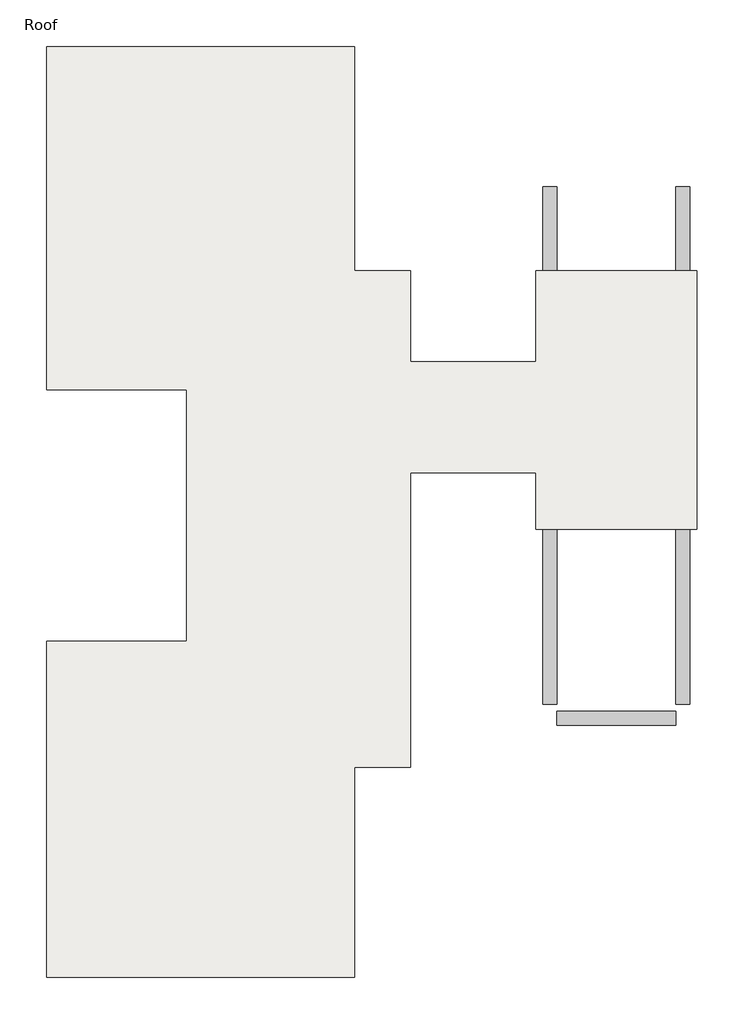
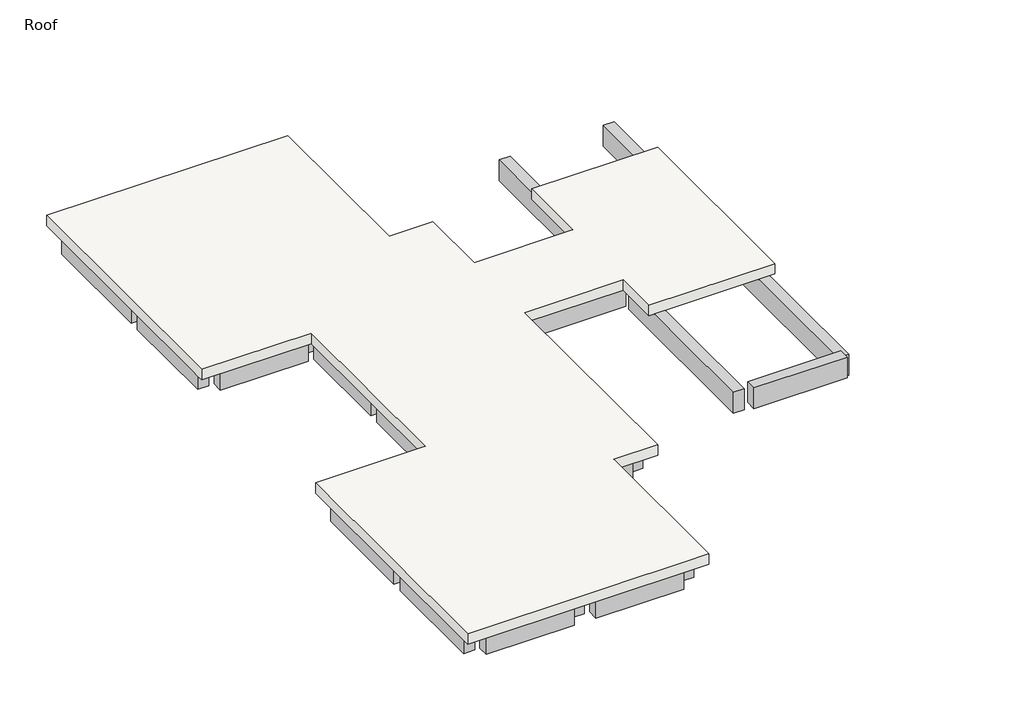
# One storey: 45 beams, 1 slab.
"""IFC4 building model written with IfcOpenShell, lengths in millimetres."""

import ifcopenshell
import ifcopenshell.guid

model = None  # the IFC model being written
_history = None  # IfcOwnerHistory: only IFC2X3 demands one
_inside = {}  # id of a spatial element -> (the spatial element, [elements in it])
_under = {}  # id of a project, library or spatial element -> (it, [spatial elements below it])
_declared = {}  # id of a project -> (the project, [libraries it declares])
_typed = {}  # id of a type object -> (the type object, [elements of that type])
_made_of = {}  # id of a material, layer set ... -> (it, [elements and type objects made of it])


def new_model(schema):
    """Start an empty IFC model of exactly this schema.

    Asked for "IFC4X3", IfcOpenShell would pick the latest addendum, in which some entities
    have other attributes; the version numbers below select the first issue.
    IFC2X3 requires an IfcOwnerHistory on every rooted entity: one is made here for all.
    """
    global model, _history
    if schema == "IFC4X3":
        model = ifcopenshell.file(schema_version=(4, 3, 0, 0))
    else:
        model = ifcopenshell.file(schema=schema)
    _inside.clear()
    _under.clear()
    _declared.clear()
    _typed.clear()
    _made_of.clear()
    _history = None
    if model.schema == "IFC2X3":
        org = make("IfcOrganization", Name="unknown")
        user = make(
            "IfcPersonAndOrganization",
            ThePerson=make("IfcPerson", FamilyName="unknown"),
            TheOrganization=org,
        )
        app = make(
            "IfcApplication",
            ApplicationDeveloper=org,
            Version="unknown",
            ApplicationFullName="unknown",
            ApplicationIdentifier="unknown",
        )
        _history = make(
            "IfcOwnerHistory",
            OwningUser=user,
            OwningApplication=app,
            ChangeAction="ADDED",
            CreationDate=0,
        )
    return model


def make(cls, **values):
    """One entity of the class cls with the attributes given. An attribute that is None is left unset."""
    return model.create_entity(
        cls, **{name: value for name, value in values.items() if value is not None}
    )


def rooted(cls, **values):
    """An entity with a GlobalId (a new one), such as an element, a storey or a relation."""
    return make(cls, GlobalId=ifcopenshell.guid.new(), OwnerHistory=_history, **values)


def si_unit(unit_type, name, prefix=None):
    """IfcSIUnit, for example si_unit("LENGTHUNIT", "METRE", prefix="MILLI")."""
    return make("IfcSIUnit", UnitType=unit_type, Prefix=prefix, Name=name)


def assignment(units):
    """IfcUnitAssignment: the units of a project."""
    return None if units is None else make("IfcUnitAssignment", Units=units)


def point(xyz):
    """IfcCartesianPoint."""
    return None if xyz is None else make("IfcCartesianPoint", Coordinates=xyz)


def direction(xyz):
    """IfcDirection."""
    return None if xyz is None else make("IfcDirection", DirectionRatios=xyz)


def frame(location, z_axis=None, x_axis=None):
    """IfcAxis2Placement3D, a coordinate frame: its origin and axes. An axis left out is left unset."""
    return make(
        "IfcAxis2Placement3D",
        Location=point(location),
        Axis=direction(z_axis),
        RefDirection=direction(x_axis),
    )


def origin():
    """The frame at (0, 0, 0) with its axes left unset."""
    return frame((0.0, 0.0, 0.0))


def place(relative_to, where):
    """IfcLocalPlacement: puts the frame where relative to a parent placement (None: the world)."""
    return make(
        "IfcLocalPlacement", PlacementRelTo=relative_to, RelativePlacement=where
    )


def context(
    kind, dimensions, precision=None, world=None, true_north=None, identifier=None
):
    """IfcGeometricRepresentationContext, for example the 3D "Model" context."""
    return make(
        "IfcGeometricRepresentationContext",
        ContextIdentifier=identifier,
        ContextType=kind,
        CoordinateSpaceDimension=dimensions,
        Precision=precision,
        WorldCoordinateSystem=world,
        TrueNorth=true_north,
    )


def project(units=None, contexts=None):
    """IfcProject with its units and contexts."""
    return rooted(
        "IfcProject",
        Name="project",
        RepresentationContexts=contexts,
        UnitsInContext=assignment(units),
    )


def spatial(cls, under=None, at=None, **own):
    """A site, building, storey or space (cls), placed at a placement, below another one or the project."""
    s = rooted(cls, ObjectPlacement=at, **own)
    if under is not None:
        _under.setdefault(under.id(), (under, []))[1].append(s)
    return s


def polyline(points):
    """IfcPolyline through the points."""
    return make("IfcPolyline", Points=[point(p) for p in points])


def outline(outer, holes=None, kind="AREA"):
    """IfcArbitraryClosedProfileDef: a profile drawn as a closed curve; with holes, ...WithVoids."""
    if holes is None:
        return make("IfcArbitraryClosedProfileDef", ProfileType=kind, OuterCurve=outer)
    return make(
        "IfcArbitraryProfileDefWithVoids",
        ProfileType=kind,
        OuterCurve=outer,
        InnerCurves=holes,
    )


def extrude(swept, where, along, depth):
    """IfcExtrudedAreaSolid: the profile swept, set in the frame where, extruded along a direction by depth."""
    return make(
        "IfcExtrudedAreaSolid",
        SweptArea=swept,
        Position=where,
        ExtrudedDirection=direction(along),
        Depth=depth,
    )


def faces_of(points, faces, orient=None, outer=None):
    """IfcFace entities. A face is a list of loops; a loop is a list of indices into points, from 0.

    orient and outer hold one flag for each loop. By default every Orientation is true, the
    first loop of a face is its IfcFaceOuterBound and the others are IfcFaceBound.
    """
    made = []
    for i, loops in enumerate(faces):
        bounds = []
        for j, loop in enumerate(loops):
            is_outer = j == 0 if outer is None else outer[i][j]
            bounds.append(
                make(
                    "IfcFaceOuterBound" if is_outer else "IfcFaceBound",
                    Bound=make("IfcPolyLoop", Polygon=[points[k] for k in loop]),
                    Orientation=True if orient is None else orient[i][j],
                )
            )
        made.append(make("IfcFace", Bounds=bounds))
    return made


def faceted_brep(points, faces, orient=None, outer=None, voids=None):
    """IfcFacetedBrep: a solid bounded by flat faces; with voids (closed shells), ...WithVoids."""
    shared = [point(p) for p in points]
    hull = make("IfcClosedShell", CfsFaces=faces_of(shared, faces, orient, outer))
    if voids is None:
        return make("IfcFacetedBrep", Outer=hull)
    return make(
        "IfcFacetedBrepWithVoids",
        Outer=hull,
        Voids=[
            make(cls, CfsFaces=faces_of(shared, fs, o, b)) for cls, fs, o, b in voids
        ],
    )


def shape(context_of_items, identifier, shape_type, items):
    """IfcShapeRepresentation: the items that make up one representation, for example the "Body"."""
    return make(
        "IfcShapeRepresentation",
        ContextOfItems=context_of_items,
        RepresentationIdentifier=identifier,
        RepresentationType=shape_type,
        Items=items,
    )


def made_of(thing, what):
    """Note that an element or type object is made of a material, layer set ...; save() writes the relation."""
    if what is not None:
        _made_of.setdefault(what.id(), (what, []))[1].append(thing)
    return thing


def element(
    cls,
    number,
    at=None,
    inside=None,
    cuts=None,
    type_object=None,
    material=None,
    context=None,
    identifier="Body",
    shape_type=None,
    held_by="IfcProductDefinitionShape",
    body=None,
    shapes=None,
    **own,
):
    """One element of the class cls, such as IfcWall. Its Tag is "e" and its number.

    at: its placement. inside: the storey or other place that contains it. cuts: it is an
    opening in that element (IfcRelVoidsElement). A single representation is given by context,
    identifier, shape_type and body (its items); several are given by shapes. held_by: the class
    of the entity that holds the representations. save() writes the other relations.
    """
    e = rooted(cls, Tag="e%d" % number, ObjectPlacement=at, **own)
    if body is not None:
        shapes = [shape(context, identifier, shape_type, body)]
    if shapes is not None:
        e.Representation = make(held_by, Representations=shapes)
    if inside is not None:
        _inside.setdefault(inside.id(), (inside, []))[1].append(e)
    if cuts is not None:
        rooted(
            "IfcRelVoidsElement", RelatingBuildingElement=cuts, RelatedOpeningElement=e
        )
    if type_object is not None:
        _typed.setdefault(type_object.id(), (type_object, []))[1].append(e)
    return made_of(e, material)


def aggregate(whole, parts):
    """IfcRelAggregates: a whole, such as a stair, and the parts it consists of."""
    return rooted("IfcRelAggregates", RelatingObject=whole, RelatedObjects=parts)


def save(model, path):
    """Write the relations noted so far, then the file.

    IfcRelAggregates (storeys below a building ...), IfcRelContainedInSpatialStructure (elements
    in a storey), IfcRelDefinesByType, IfcRelAssociatesMaterial and IfcRelDeclares: one each for
    every whole, place, type object, material and project.
    """
    for whole, parts in _under.values():
        aggregate(whole, parts)
    for where, things in _inside.values():
        rooted(
            "IfcRelContainedInSpatialStructure",
            RelatedElements=things,
            RelatingStructure=where,
        )
    for kind, things in _typed.values():
        rooted("IfcRelDefinesByType", RelatedObjects=things, RelatingType=kind)
    for what, things in _made_of.values():
        rooted("IfcRelAssociatesMaterial", RelatedObjects=things, RelatingMaterial=what)
    for by, libraries in _declared.values():
        rooted("IfcRelDeclares", RelatingContext=by, RelatedDefinitions=libraries)
    model.write(path)


model = new_model("IFC4")

# Units and contexts
model_context = context("Model", 3, world=origin())
ifc_project = project(units=[si_unit("LENGTHUNIT", "METRE", prefix="MILLI")], contexts=[model_context])

# Site, building, storey
site = spatial("IfcSite", under=ifc_project)
building = spatial("IfcBuilding", under=site)
storey = spatial("IfcBuildingStorey", under=building, Name="Roof", Elevation=7620.0)

# Beams
placement = place(None, origin())
element("IfcBeam", 1, ObjectType="Concrete-Rectangular Beam : 12 x 24", at=placement, inside=storey, context=model_context, shape_type="SweptSolid", body=[
    extrude(outline(polyline([(-15067.9554735, 14342.1867088), (-15067.9554735, 14646.9867088), (-12629.5554735, 14646.9867088), (-12629.5554735, 14342.1867088), (-15067.9554735, 14342.1867088)])), frame((0.0, 0.0, 6705.6), z_axis=(0.0, 0.0, 1.0), x_axis=(1.0, 0.0, 0.0)), (0.0, 0.0, 1.0), 609.6),
])
element("IfcBeam", 2, ObjectType="Concrete-Rectangular Beam : 12 x 24", at=placement, inside=storey, context=model_context, shape_type="SweptSolid", body=[
    extrude(outline(polyline([(-12019.9554735, 14342.1867088), (-12019.9554735, 14646.9867088), (-9581.5554735, 14646.9867088), (-9581.5554735, 14342.1867088), (-12019.9554735, 14342.1867088)])), frame((0.0, 0.0, 6705.6), z_axis=(0.0, 0.0, 1.0), x_axis=(1.0, 0.0, 0.0)), (0.0, 0.0, 1.0), 609.6),
])
element("IfcBeam", 3, ObjectType="Concrete-Rectangular Beam : 12 x 24", at=placement, inside=storey, context=model_context, shape_type="SweptSolid", body=[
    extrude(outline(polyline([(-9429.1554735, 14342.1867088), (-9124.3554735, 14342.1867088), (-9124.3554735, 10989.3867088), (-9429.1554735, 10989.3867088), (-9429.1554735, 14342.1867088)])), frame((0.0, 0.0, 6705.6), z_axis=(0.0, 0.0, 1.0), x_axis=(1.0, 0.0, 0.0)), (0.0, 0.0, 1.0), 609.6),
])
element("IfcBeam", 4, ObjectType="Concrete-Rectangular Beam : 12 x 24", at=placement, inside=storey, context=model_context, shape_type="SweptSolid", body=[
    extrude(outline(polyline([(-7905.1554735, 7788.9867088), (-8209.9554735, 7788.9867088), (-8209.9554735, 9465.3867088), (-7905.1554735, 9465.3867088), (-7905.1554735, 7788.9867088)])), frame((0.0, 0.0, 6705.6), z_axis=(0.0, 0.0, 1.0), x_axis=(1.0, 0.0, 0.0)), (0.0, 0.0, 1.0), 609.6),
])
element("IfcBeam", 5, ObjectType="Concrete-Rectangular Beam : 12 x 24", at=placement, inside=storey, context=model_context, shape_type="Brep", body=[
    faceted_brep([(-9429.1554735, 9770.1867088, 7315.2), (-9429.1554735, 9465.3867088, 7315.2), (-8362.3554735, 9465.3867088, 7315.2), (-8362.3554735, 9770.1867088, 7315.2), (-9124.3554735, 9770.1867088, 7315.2), (-9429.1554735, 9770.1867088, 6705.6), (-8362.3554735, 9770.1867088, 6705.6), (-9124.3554735, 9770.1867088, 6705.6), (-9429.1554735, 9465.3867088, 6705.6), (-8362.3554735, 9465.3867088, 6705.6)], [[[0, 1, 2, 3, 4]], [[5, 0, 4, 3, 6, 7]], [[8, 5, 7, 6, 9]], [[1, 8, 9, 2]], [[3, 2, 9, 6]], [[1, 0, 5, 8]]]),
])
element("IfcBeam", 6, ObjectType="Concrete-Rectangular Beam : 12 x 24", at=placement, inside=storey, context=model_context, shape_type="Brep", body=[
    faceted_brep([(-7905.1554735, 7484.1867088, 7315.2), (-8209.9554735, 7484.1867088, 7315.2), (-8209.9554735, 4740.9867088, 7315.2), (-7905.1554735, 4740.9867088, 7315.2), (-7905.1554735, 5655.3867088, 7315.2), (-7905.1554735, 5960.1867088, 7315.2), (-8209.9554735, 7484.1867088, 6705.6), (-8209.9554735, 4740.9867088, 6705.6), (-7905.1554735, 7484.1867088, 6705.6), (-7905.1554735, 5960.1867088, 6705.6), (-7905.1554735, 5655.3867088, 6705.6), (-7905.1554735, 4740.9867088, 6705.6)], [[[0, 1, 2, 3, 4, 5]], [[1, 6, 7, 2]], [[6, 8, 9, 10, 11, 7]], [[8, 0, 5, 4, 3, 11, 10, 9]], [[6, 1, 0, 8]], [[3, 2, 7, 11]]]),
])
element("IfcBeam", 7, ObjectType="Concrete-Rectangular Beam : 12 x 24", at=placement, inside=storey, context=model_context, shape_type="SweptSolid", body=[
    extrude(outline(polyline([(-8209.9554735, 4436.1867088), (-7905.1554735, 4436.1867088), (-7905.1554735, 1692.9867088), (-8209.9554735, 1692.9867088), (-8209.9554735, 4436.1867088)])), frame((0.0, 0.0, 6705.6), z_axis=(0.0, 0.0, 1.0), x_axis=(1.0, 0.0, 0.0)), (0.0, 0.0, 1.0), 609.6),
])
element("IfcBeam", 8, ObjectType="Concrete-Rectangular Beam : 12 x 24", at=placement, inside=storey, context=model_context, shape_type="SweptSolid", body=[
    extrude(outline(polyline([(-8209.9554735, 1388.1867088), (-7905.1554735, 1388.1867088), (-7905.1554735, -440.6132912), (-8209.9554735, -440.6132912), (-8209.9554735, 1388.1867088)])), frame((0.0, 0.0, 6705.6), z_axis=(0.0, 0.0, 1.0), x_axis=(1.0, 0.0, 0.0)), (0.0, 0.0, 1.0), 609.6),
])
element("IfcBeam", 9, ObjectType="Concrete-Rectangular Beam : 12 x 24", at=placement, inside=storey, context=model_context, shape_type="Brep", body=[
    faceted_brep([(-9429.1554735, -440.6132912, 7315.2), (-9429.1554735, -745.4132912, 7315.2), (-9124.3554735, -745.4132912, 7315.2), (-8362.3554735, -745.4132912, 7315.2), (-8362.3554735, -440.6132912, 7315.2), (-9429.1554735, -440.6132912, 6705.6), (-8362.3554735, -440.6132912, 6705.6), (-9429.1554735, -745.4132912, 6705.6), (-8362.3554735, -745.4132912, 6705.6), (-9124.3554735, -745.4132912, 6705.6)], [[[0, 1, 2, 3, 4]], [[5, 0, 4, 6]], [[7, 5, 6, 8, 9]], [[1, 7, 9, 8, 3, 2]], [[4, 3, 8, 6]], [[1, 0, 5, 7]]]),
])
element("IfcBeam", 10, ObjectType="Concrete-Rectangular Beam : 12 x 24", at=placement, inside=storey, context=model_context, shape_type="SweptSolid", body=[
    extrude(outline(polyline([(-9429.1554735, -745.4132912), (-9124.3554735, -745.4132912), (-9124.3554735, -1659.8132912), (-9429.1554735, -1659.8132912), (-9429.1554735, -745.4132912)])), frame((0.0, 0.0, 6705.6), z_axis=(0.0, 0.0, 1.0), x_axis=(1.0, 0.0, 0.0)), (0.0, 0.0, 1.0), 609.6),
])
element("IfcBeam", 11, ObjectType="Concrete-Rectangular Beam : 12 x 24", at=placement, inside=storey, context=model_context, shape_type="SweptSolid", body=[
    extrude(outline(polyline([(-9429.1554735, -1964.6132912), (-9124.3554735, -1964.6132912), (-9124.3554735, -5012.6132912), (-9429.1554735, -5012.6132912), (-9429.1554735, -1964.6132912)])), frame((0.0, 0.0, 6705.6), z_axis=(0.0, 0.0, 1.0), x_axis=(1.0, 0.0, 0.0)), (0.0, 0.0, 1.0), 609.6),
])
element("IfcBeam", 12, ObjectType="Concrete-Rectangular Beam : 12 x 24", at=placement, inside=storey, context=model_context, shape_type="SweptSolid", body=[
    extrude(outline(polyline([(-12019.9554735, -5317.4132912), (-12019.9554735, -5012.6132912), (-9581.5554735, -5012.6132912), (-9581.5554735, -5317.4132912), (-12019.9554735, -5317.4132912)])), frame((0.0, 0.0, 6705.6), z_axis=(0.0, 0.0, 1.0), x_axis=(1.0, 0.0, 0.0)), (0.0, 0.0, 1.0), 609.6),
])
element("IfcBeam", 13, ObjectType="Concrete-Rectangular Beam : 12 x 24", at=placement, inside=storey, context=model_context, shape_type="SweptSolid", body=[
    extrude(outline(polyline([(-12629.5554735, -5012.6132912), (-12629.5554735, -5317.4132912), (-15067.9554735, -5317.4132912), (-15067.9554735, -5012.6132912), (-12629.5554735, -5012.6132912)])), frame((0.0, 0.0, 6705.6), z_axis=(0.0, 0.0, 1.0), x_axis=(1.0, 0.0, 0.0)), (0.0, 0.0, 1.0), 609.6),
])
element("IfcBeam", 14, ObjectType="Concrete-Rectangular Beam : 12 x 24", at=placement, inside=storey, context=model_context, shape_type="SweptSolid", body=[
    extrude(outline(polyline([(-15220.3554735, -5012.6132912), (-15525.1554735, -5012.6132912), (-15525.1554735, -1964.6132912), (-15220.3554735, -1964.6132912), (-15220.3554735, -5012.6132912)])), frame((0.0, 0.0, 6705.6), z_axis=(0.0, 0.0, 1.0), x_axis=(1.0, 0.0, 0.0)), (0.0, 0.0, 1.0), 609.6),
])
element("IfcBeam", 15, ObjectType="Concrete-Rectangular Beam : 12 x 24", at=placement, inside=storey, context=model_context, shape_type="SweptSolid", body=[
    extrude(outline(polyline([(-15220.3554735, -1659.8132912), (-15525.1554735, -1659.8132912), (-15525.1554735, 1388.1867088), (-15220.3554735, 1388.1867088), (-15220.3554735, -1659.8132912)])), frame((0.0, 0.0, 6705.6), z_axis=(0.0, 0.0, 1.0), x_axis=(1.0, 0.0, 0.0)), (0.0, 0.0, 1.0), 609.6),
])
element("IfcBeam", 16, ObjectType="Concrete-Rectangular Beam : 12 x 24", at=placement, inside=storey, context=model_context, shape_type="SweptSolid", body=[
    extrude(outline(polyline([(-15525.1554735, 14342.1867088), (-15220.3554735, 14342.1867088), (-15220.3554735, 10989.3867088), (-15525.1554735, 10989.3867088), (-15525.1554735, 14342.1867088)])), frame((0.0, 0.0, 6705.6), z_axis=(0.0, 0.0, 1.0), x_axis=(1.0, 0.0, 0.0)), (0.0, 0.0, 1.0), 609.6),
])
element("IfcBeam", 17, ObjectType="Concrete-Rectangular Beam : 12 x 24", at=placement, inside=storey, context=model_context, shape_type="SweptSolid", body=[
    extrude(outline(polyline([(-12477.1554735, 14342.1867088), (-12172.3554735, 14342.1867088), (-12172.3554735, 10989.3867088), (-12477.1554735, 10989.3867088), (-12477.1554735, 14342.1867088)])), frame((0.0, 0.0, 6705.6), z_axis=(0.0, 0.0, 1.0), x_axis=(1.0, 0.0, 0.0)), (0.0, 0.0, 1.0), 609.6),
])
element("IfcBeam", 18, ObjectType="Concrete-Rectangular Beam : 12 x 24", at=placement, inside=storey, context=model_context, shape_type="SweptSolid", body=[
    extrude(outline(polyline([(-15067.9554735, 10684.5867088), (-15067.9554735, 10989.3867088), (-12629.5554735, 10989.3867088), (-12629.5554735, 10684.5867088), (-15067.9554735, 10684.5867088)])), frame((0.0, 0.0, 6705.6), z_axis=(0.0, 0.0, 1.0), x_axis=(1.0, 0.0, 0.0)), (0.0, 0.0, 1.0), 609.6),
])
element("IfcBeam", 19, ObjectType="Concrete-Rectangular Beam : 12 x 24", at=placement, inside=storey, context=model_context, shape_type="SweptSolid", body=[
    extrude(outline(polyline([(-12477.1554735, 10836.9867088), (-12172.3554735, 10836.9867088), (-12172.3554735, 7788.9867088), (-12477.1554735, 7788.9867088), (-12477.1554735, 10836.9867088)])), frame((0.0, 0.0, 6705.6), z_axis=(0.0, 0.0, 1.0), x_axis=(1.0, 0.0, 0.0)), (0.0, 0.0, 1.0), 609.6),
])
element("IfcBeam", 20, ObjectType="Concrete-Rectangular Beam : 12 x 24", at=placement, inside=storey, context=model_context, shape_type="SweptSolid", body=[
    extrude(outline(polyline([(-12477.1554735, 7484.1867088), (-12172.3554735, 7484.1867088), (-12172.3554735, 4740.9867088), (-12477.1554735, 4740.9867088), (-12477.1554735, 7484.1867088)])), frame((0.0, 0.0, 6705.6), z_axis=(0.0, 0.0, 1.0), x_axis=(1.0, 0.0, 0.0)), (0.0, 0.0, 1.0), 609.6),
])
element("IfcBeam", 21, ObjectType="Concrete-Rectangular Beam : 12 x 24", at=placement, inside=storey, context=model_context, shape_type="SweptSolid", body=[
    extrude(outline(polyline([(-12477.1554735, 4436.1867088), (-12172.3554735, 4436.1867088), (-12172.3554735, 1692.9867088), (-12477.1554735, 1692.9867088), (-12477.1554735, 4436.1867088)])), frame((0.0, 0.0, 6705.6), z_axis=(0.0, 0.0, 1.0), x_axis=(1.0, 0.0, 0.0)), (0.0, 0.0, 1.0), 609.6),
])
element("IfcBeam", 22, ObjectType="Concrete-Rectangular Beam : 12 x 24", at=placement, inside=storey, context=model_context, shape_type="SweptSolid", body=[
    extrude(outline(polyline([(-12477.1554735, 1388.1867088), (-12172.3554735, 1388.1867088), (-12172.3554735, -1659.8132912), (-12477.1554735, -1659.8132912), (-12477.1554735, 1388.1867088)])), frame((0.0, 0.0, 6705.6), z_axis=(0.0, 0.0, 1.0), x_axis=(1.0, 0.0, 0.0)), (0.0, 0.0, 1.0), 609.6),
])
element("IfcBeam", 23, ObjectType="Concrete-Rectangular Beam : 12 x 24", at=placement, inside=storey, context=model_context, shape_type="SweptSolid", body=[
    extrude(outline(polyline([(-12172.3554735, -5012.6132912), (-12477.1554735, -5012.6132912), (-12477.1554735, -1964.6132912), (-12172.3554735, -1964.6132912), (-12172.3554735, -5012.6132912)])), frame((0.0, 0.0, 6705.6), z_axis=(0.0, 0.0, 1.0), x_axis=(1.0, 0.0, 0.0)), (0.0, 0.0, 1.0), 609.6),
])
element("IfcBeam", 24, ObjectType="Concrete-Rectangular Beam : 12 x 24", at=placement, inside=storey, context=model_context, shape_type="SweptSolid", body=[
    extrude(outline(polyline([(-15525.1554735, 10684.5867088), (-15220.3554735, 10684.5867088), (-15220.3554735, 7788.9867088), (-15525.1554735, 7788.9867088), (-15525.1554735, 10684.5867088)])), frame((0.0, 0.0, 6705.6), z_axis=(0.0, 0.0, 1.0), x_axis=(1.0, 0.0, 0.0)), (0.0, 0.0, 1.0), 609.6),
])
element("IfcBeam", 25, ObjectType="Concrete-Rectangular Beam : 12 x 24", at=placement, inside=storey, context=model_context, shape_type="SweptSolid", body=[
    extrude(outline(polyline([(-15067.9554735, 7484.1867088), (-15067.9554735, 7788.9867088), (-12629.5554735, 7788.9867088), (-12629.5554735, 7484.1867088), (-15067.9554735, 7484.1867088)])), frame((0.0, 0.0, 6705.6), z_axis=(0.0, 0.0, 1.0), x_axis=(1.0, 0.0, 0.0)), (0.0, 0.0, 1.0), 609.6),
])
element("IfcBeam", 26, ObjectType="Concrete-Rectangular Beam : 12 x 24", at=placement, inside=storey, context=model_context, shape_type="SweptSolid", body=[
    extrude(outline(polyline([(-12019.9554735, 1388.1867088), (-12019.9554735, 1692.9867088), (-8362.3554735, 1692.9867088), (-8362.3554735, 1388.1867088), (-12019.9554735, 1388.1867088)])), frame((0.0, 0.0, 6705.6), z_axis=(0.0, 0.0, 1.0), x_axis=(1.0, 0.0, 0.0)), (0.0, 0.0, 1.0), 609.6),
])
element("IfcBeam", 27, ObjectType="Concrete-Rectangular Beam : 12 x 24", at=placement, inside=storey, context=model_context, shape_type="SweptSolid", body=[
    extrude(outline(polyline([(-4552.3554735, 5655.3867088), (-4552.3554735, 5960.1867088), (-1961.5554735, 5960.1867088), (-1961.5554735, 5655.3867088), (-4552.3554735, 5655.3867088)])), frame((0.0, 0.0, 6705.6), z_axis=(0.0, 0.0, 1.0), x_axis=(1.0, 0.0, 0.0)), (0.0, 0.0, 1.0), 609.6),
])
element("IfcBeam", 28, ObjectType="Concrete-Rectangular Beam : 12 x 24", at=placement, inside=storey, context=model_context, shape_type="SweptSolid", body=[
    extrude(outline(polyline([(-4857.1554735, 7788.9867088), (-4857.1554735, 7484.1867088), (-7752.7554735, 7484.1867088), (-7752.7554735, 7788.9867088), (-4857.1554735, 7788.9867088)])), frame((0.0, 0.0, 6705.6), z_axis=(0.0, 0.0, 1.0), x_axis=(1.0, 0.0, 0.0)), (0.0, 0.0, 1.0), 609.6),
])
element("IfcBeam", 29, ObjectType="Concrete-Rectangular Beam : 12 x 24", at=placement, inside=storey, context=model_context, shape_type="SweptSolid", body=[
    extrude(outline(polyline([(-4857.1554735, 5960.1867088), (-4857.1554735, 5655.3867088), (-7905.1554735, 5655.3867088), (-7905.1554735, 5960.1867088), (-4857.1554735, 5960.1867088)])), frame((0.0, 0.0, 6705.6), z_axis=(0.0, 0.0, 1.0), x_axis=(1.0, 0.0, 0.0)), (0.0, 0.0, 1.0), 609.6),
])
element("IfcBeam", 30, ObjectType="Concrete-Rectangular Beam : 12 x 24", at=placement, inside=storey, context=model_context, shape_type="SweptSolid", body=[
    extrude(outline(polyline([(-4552.3554735, 7484.1867088), (-4552.3554735, 7788.9867088), (-1961.5554735, 7788.9867088), (-1961.5554735, 7484.1867088), (-4552.3554735, 7484.1867088)])), frame((0.0, 0.0, 6705.6), z_axis=(0.0, 0.0, 1.0), x_axis=(1.0, 0.0, 0.0)), (0.0, 0.0, 1.0), 609.6),
])
element("IfcBeam", 31, ObjectType="Concrete-Rectangular Beam : 12 x 24", at=placement, inside=storey, context=model_context, shape_type="SweptSolid", body=[
    extrude(outline(polyline([(-12477.1554735, 10684.5867088), (-12172.3554735, 10684.5867088), (-12172.3554735, 7788.9867088), (-12477.1554735, 7788.9867088), (-12477.1554735, 10684.5867088)])), frame((0.0, 0.0, 6705.6), z_axis=(0.0, 0.0, 1.0), x_axis=(1.0, 0.0, 0.0)), (0.0, 0.0, 1.0), 609.6),
])
element("IfcBeam", 32, ObjectType="Concrete-Rectangular Beam : 12 x 24", at=placement, inside=storey, context=model_context, shape_type="SweptSolid", body=[
    extrude(outline(polyline([(-12019.9554735, 10684.5867088), (-12019.9554735, 10989.3867088), (-9581.5554735, 10989.3867088), (-9581.5554735, 10684.5867088), (-12019.9554735, 10684.5867088)])), frame((0.0, 0.0, 6705.6), z_axis=(0.0, 0.0, 1.0), x_axis=(1.0, 0.0, 0.0)), (0.0, 0.0, 1.0), 609.6),
])
element("IfcBeam", 33, ObjectType="Concrete-Rectangular Beam : 12 x 24", at=placement, inside=storey, context=model_context, shape_type="SweptSolid", body=[
    extrude(outline(polyline([(-12629.5554735, -1659.8132912), (-12629.5554735, -1964.6132912), (-15067.9554735, -1964.6132912), (-15067.9554735, -1659.8132912), (-12629.5554735, -1659.8132912)])), frame((0.0, 0.0, 6705.6), z_axis=(0.0, 0.0, 1.0), x_axis=(1.0, 0.0, 0.0)), (0.0, 0.0, 1.0), 609.6),
])
element("IfcBeam", 34, ObjectType="Concrete-Rectangular Beam : 12 x 24", at=placement, inside=storey, context=model_context, shape_type="SweptSolid", body=[
    extrude(outline(polyline([(-12629.5554735, 1692.9867088), (-12629.5554735, 1388.1867088), (-15067.9554735, 1388.1867088), (-15067.9554735, 1692.9867088), (-12629.5554735, 1692.9867088)])), frame((0.0, 0.0, 6705.6), z_axis=(0.0, 0.0, 1.0), x_axis=(1.0, 0.0, 0.0)), (0.0, 0.0, 1.0), 609.6),
])
element("IfcBeam", 35, ObjectType="Concrete-Rectangular Beam : 12 x 24", at=placement, inside=storey, context=model_context, shape_type="SweptSolid", body=[
    extrude(outline(polyline([(-12019.9554735, -1964.6132912), (-12019.9554735, -1659.8132912), (-9581.5554735, -1659.8132912), (-9581.5554735, -1964.6132912), (-12019.9554735, -1964.6132912)])), frame((0.0, 0.0, 6705.6), z_axis=(0.0, 0.0, 1.0), x_axis=(1.0, 0.0, 0.0)), (0.0, 0.0, 1.0), 609.6),
])
element("IfcBeam", 36, ObjectType="Concrete-Rectangular Beam : 12 x 24", at=placement, inside=storey, context=model_context, shape_type="SweptSolid", body=[
    extrude(outline(polyline([(-9124.3554735, 9770.1867088), (-9429.1554735, 9770.1867088), (-9429.1554735, 10684.5867088), (-9124.3554735, 10684.5867088), (-9124.3554735, 9770.1867088)])), frame((0.0, 0.0, 6705.6), z_axis=(0.0, 0.0, 1.0), x_axis=(1.0, 0.0, 0.0)), (0.0, 0.0, 1.0), 609.6),
])
element("IfcBeam", 37, ObjectType="Concrete-Rectangular Beam : 12 x 24", at=placement, inside=storey, context=model_context, shape_type="SweptSolid", body=[
    extrude(outline(polyline([(-8362.3554735, 7788.9867088), (-8362.3554735, 7484.1867088), (-12019.9554735, 7484.1867088), (-12019.9554735, 7788.9867088), (-8362.3554735, 7788.9867088)])), frame((0.0, 0.0, 6705.6), z_axis=(0.0, 0.0, 1.0), x_axis=(1.0, 0.0, 0.0)), (0.0, 0.0, 1.0), 609.6),
])
element("IfcBeam", 38, ObjectType="Concrete-Rectangular Beam : 12 x 24", at=placement, inside=storey, context=model_context, shape_type="SweptSolid", body=[
    extrude(outline(polyline([(-12019.9554735, 4436.1867088), (-12019.9554735, 4740.9867088), (-8362.3554735, 4740.9867088), (-8362.3554735, 4436.1867088), (-12019.9554735, 4436.1867088)])), frame((0.0, 0.0, 6705.6), z_axis=(0.0, 0.0, 1.0), x_axis=(1.0, 0.0, 0.0)), (0.0, 0.0, 1.0), 609.6),
])
element("IfcBeam", 39, ObjectType="Concrete-Rectangular Beam : 12 x 24", at=placement, inside=storey, context=model_context, shape_type="SweptSolid", body=[
    extrude(outline(polyline([(-4857.1554735, 5502.9867088), (-4552.3554735, 5502.9867088), (-4552.3554735, 473.7867088), (-4857.1554735, 473.7867088), (-4857.1554735, 5502.9867088)])), frame((0.0, 0.0, 6705.6), z_axis=(0.0, 0.0, 1.0), x_axis=(1.0, 0.0, 0.0)), (0.0, 0.0, 1.0), 609.6),
])
element("IfcBeam", 40, ObjectType="Concrete-Rectangular Beam : 12 x 24", at=placement, inside=storey, context=model_context, shape_type="SweptSolid", body=[
    extrude(outline(polyline([(-4552.3554735, 16.5867088), (-4552.3554735, 321.3867088), (-1961.5554735, 321.3867088), (-1961.5554735, 16.5867088), (-4552.3554735, 16.5867088)])), frame((0.0, 0.0, 7010.4), z_axis=(0.0, 0.0, 1.0), x_axis=(1.0, 0.0, 0.0)), (0.0, 0.0, 1.0), 609.6),
])
element("IfcBeam", 41, ObjectType="Concrete-Rectangular Beam : 12 x 24", at=placement, inside=storey, context=model_context, shape_type="SweptSolid", body=[
    extrude(outline(polyline([(-4857.1554735, 11751.3867088), (-4552.3554735, 11751.3867088), (-4552.3554735, 7941.3867088), (-4857.1554735, 7941.3867088), (-4857.1554735, 11751.3867088)])), frame((0.0, 0.0, 6705.6), z_axis=(0.0, 0.0, 1.0), x_axis=(1.0, 0.0, 0.0)), (0.0, 0.0, 1.0), 609.6),
])
element("IfcBeam", 42, ObjectType="Concrete-Rectangular Beam : 12 x 24", at=placement, inside=storey, context=model_context, shape_type="SweptSolid", body=[
    extrude(outline(polyline([(-1961.5554735, 11751.3867088), (-1656.7554735, 11751.3867088), (-1656.7554735, 7941.3867088), (-1961.5554735, 7941.3867088), (-1961.5554735, 11751.3867088)])), frame((0.0, 0.0, 6705.6), z_axis=(0.0, 0.0, 1.0), x_axis=(1.0, 0.0, 0.0)), (0.0, 0.0, 1.0), 609.6),
])
element("IfcBeam", 43, ObjectType="Concrete-Rectangular Beam : 12 x 24", at=placement, inside=storey, context=model_context, shape_type="SweptSolid", body=[
    extrude(outline(polyline([(-4857.1554735, 7331.7867088), (-4552.3554735, 7331.7867088), (-4552.3554735, 6112.5867088), (-4857.1554735, 6112.5867088), (-4857.1554735, 7331.7867088)])), frame((0.0, 0.0, 6705.6), z_axis=(0.0, 0.0, 1.0), x_axis=(1.0, 0.0, 0.0)), (0.0, 0.0, 1.0), 609.6),
])
element("IfcBeam", 44, ObjectType="Concrete-Rectangular Beam : 12 x 24", at=placement, inside=storey, context=model_context, shape_type="SweptSolid", body=[
    extrude(outline(polyline([(-1961.5554735, 7331.7867088), (-1656.7554735, 7331.7867088), (-1656.7554735, 6112.5867088), (-1961.5554735, 6112.5867088), (-1961.5554735, 7331.7867088)])), frame((0.0, 0.0, 6705.6), z_axis=(0.0, 0.0, 1.0), x_axis=(1.0, 0.0, 0.0)), (0.0, 0.0, 1.0), 609.6),
])
element("IfcBeam", 45, ObjectType="Concrete-Rectangular Beam : 12 x 24", at=placement, inside=storey, context=model_context, shape_type="SweptSolid", body=[
    extrude(outline(polyline([(-1656.7554735, 473.7867088), (-1961.5554735, 473.7867088), (-1961.5554735, 5502.9867088), (-1656.7554735, 5502.9867088), (-1656.7554735, 473.7867088)])), frame((0.0, 0.0, 6705.6), z_axis=(0.0, 0.0, 1.0), x_axis=(1.0, 0.0, 0.0)), (0.0, 0.0, 1.0), 609.6),
])

# Slab
element("IfcSlab", 46, ObjectType="Generic - 12\"", at=placement, inside=storey, context=model_context, shape_type="Brep", body=[
    faceted_brep([(-8971.9554735, 14799.3867088, 7315.2), (-8971.9554735, 14646.9867088, 7315.2), (-8971.9554735, 14342.1867088, 7315.2), (-8971.9554735, 10989.3867088, 7315.2), (-8971.9554735, 10684.5867088, 7315.2), (-8971.9554735, 9922.5867088, 7315.2), (-7752.7554735, 9922.5867088, 7315.2), (-7752.7554735, 9770.1867088, 7315.2), (-7752.7554735, 9465.3867088, 7315.2), (-7752.7554735, 7941.3867088, 7315.2), (-5009.5554735, 7941.3867088, 7315.2), (-5009.5554735, 9922.5867088, 7315.2), (-1504.3554735, 9922.5867088, 7315.2), (-1504.3554735, 4283.7867088, 7315.2), (-5009.5554735, 4283.7867088, 7315.2), (-5009.5554735, 5516.5265407, 7315.2), (-7752.7554735, 5516.5265407, 7315.2), (-7752.7554735, 4740.9867088, 7315.2), (-7752.7554735, 4436.1867088, 7315.2), (-7752.7554735, 1692.9867088, 7315.2), (-7752.7554735, 1388.1867088, 7315.2), (-7752.7554735, -440.6132912, 7315.2), (-7752.7554735, -745.4132912, 7315.2), (-7752.7554735, -897.8132912, 7315.2), (-8971.9554735, -897.8132912, 7315.2), (-8971.9554735, -1659.8132912, 7315.2), (-8971.9554735, -1964.6132912, 7315.2), (-8971.9554735, -5012.6132912, 7315.2), (-8971.9554735, -5317.4132912, 7315.2), (-8971.9554735, -5469.8132912, 7315.2), (-15677.5554735, -5469.8132912, 7315.2), (-15677.5554735, -5317.4132912, 7315.2), (-15677.5554735, -5012.6132912, 7315.2), (-15677.5554735, -1964.6132912, 7315.2), (-15677.5554735, -1659.8132912, 7315.2), (-15677.5554735, 1388.1867088, 7315.2), (-15677.5554735, 1692.9867088, 7315.2), (-15677.5554735, 1845.3867088, 7315.2), (-12629.5554735, 1845.3867088, 7315.2), (-12629.5554735, 4436.1867088, 7315.2), (-12629.5554735, 4740.9867088, 7315.2), (-12629.5554735, 7331.7867088, 7315.2), (-15677.5554735, 7331.7867088, 7315.2), (-15677.5554735, 7484.1867088, 7315.2), (-15677.5554735, 7788.9867088, 7315.2), (-15677.5554735, 10684.5867088, 7315.2), (-15677.5554735, 10989.3867088, 7315.2), (-15677.5554735, 14342.1867088, 7315.2), (-15677.5554735, 14646.9867088, 7315.2), (-15677.5554735, 14799.3867088, 7315.2), (-8971.9554735, 14799.3867088, 7620.0), (-15677.5554735, 14799.3867088, 7620.0), (-15677.5554735, 7331.7867088, 7620.0), (-12629.5554735, 7331.7867088, 7620.0), (-12629.5554735, 1845.3867088, 7620.0), (-15677.5554735, 1845.3867088, 7620.0), (-15677.5554735, -5469.8132912, 7620.0), (-8971.9554735, -5469.8132912, 7620.0), (-8971.9554735, -897.8132912, 7620.0), (-7752.7554735, -897.8132912, 7620.0), (-7752.7554735, 5516.5265407, 7620.0), (-5009.5554735, 5516.5265407, 7620.0), (-5009.5554735, 4283.7867088, 7620.0), (-1504.3554735, 4283.7867088, 7620.0), (-1504.3554735, 9922.5867088, 7620.0), (-5009.5554735, 9922.5867088, 7620.0), (-5009.5554735, 7941.3867088, 7620.0), (-7752.7554735, 7941.3867088, 7620.0), (-7752.7554735, 9922.5867088, 7620.0), (-8971.9554735, 9922.5867088, 7620.0)], [[[0, 1, 2, 3, 4, 5, 6, 7, 8, 9, 10, 11, 12, 13, 14, 15, 16, 17, 18, 19, 20, 21, 22, 23, 24, 25, 26, 27, 28, 29, 30, 31, 32, 33, 34, 35, 36, 37, 38, 39, 40, 41, 42, 43, 44, 45, 46, 47, 48, 49]], [[50, 51, 52, 53, 54, 55, 56, 57, 58, 59, 60, 61, 62, 63, 64, 65, 66, 67, 68, 69]], [[5, 4, 3, 2, 1, 0, 50, 69]], [[6, 5, 69, 68]], [[9, 8, 7, 6, 68, 67]], [[10, 9, 67, 66]], [[11, 10, 66, 65]], [[12, 11, 65, 64]], [[13, 12, 64, 63]], [[14, 13, 63, 62]], [[15, 14, 62, 61]], [[16, 15, 61, 60]], [[23, 22, 21, 20, 19, 18, 17, 16, 60, 59]], [[24, 23, 59, 58]], [[29, 28, 27, 26, 25, 24, 58, 57]], [[30, 29, 57, 56]], [[37, 36, 35, 34, 33, 32, 31, 30, 56, 55]], [[38, 37, 55, 54]], [[41, 40, 39, 38, 54, 53]], [[42, 41, 53, 52]], [[49, 48, 47, 46, 45, 44, 43, 42, 52, 51]], [[0, 49, 51, 50]]]),
])

save(model, "model.ifc")
